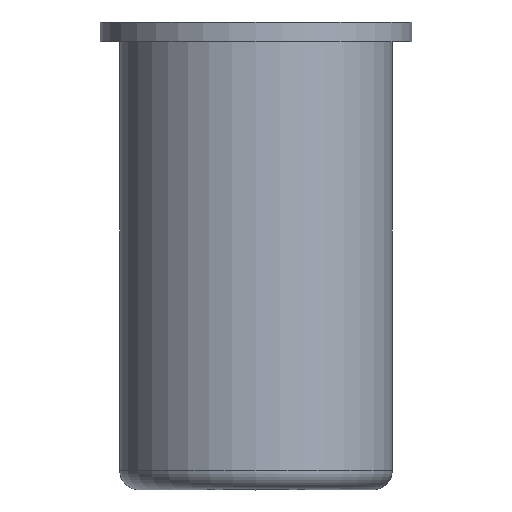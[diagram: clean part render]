
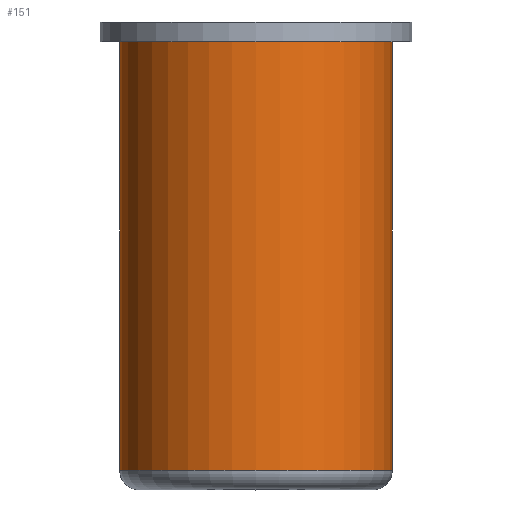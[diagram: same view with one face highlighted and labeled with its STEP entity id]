
A CAD part, top view. The second image highlights one B-rep face of the part: STEP entity #151.
In plain terms, the highlighted cylindrical face has radius 3.5 mm (diameter 7 mm), a full revolution.
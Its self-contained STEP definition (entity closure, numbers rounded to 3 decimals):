
#4 = DIRECTION ( 'NONE',  ( 0., 0., -1. ) ) ;
#17 = DIRECTION ( 'NONE',  ( 0., -1., 0. ) ) ;
#24 = VERTEX_POINT ( 'NONE', #41 ) ;
#41 = CARTESIAN_POINT ( 'NONE',  ( 0., -11.5, 3.5 ) ) ;
#45 = CYLINDRICAL_SURFACE ( 'NONE', #81, 3.5 ) ;
#47 = CIRCLE ( 'NONE', #136, 3.5 ) ;
#51 = CARTESIAN_POINT ( 'NONE',  ( 0., -11.5, 0. ) ) ;
#62 = CARTESIAN_POINT ( 'NONE',  ( 0., 0., 0. ) ) ;
#81 = AXIS2_PLACEMENT_3D ( 'NONE', #62, #17, #168 ) ;
#90 = AXIS2_PLACEMENT_3D ( 'NONE', #51, #100, #113 ) ;
#92 = VERTEX_POINT ( 'NONE', #105 ) ;
#93 = ORIENTED_EDGE ( 'NONE', *, *, #117, .T. ) ;
#98 = EDGE_CURVE ( 'NONE', #24, #24, #163, .T. ) ;
#100 = DIRECTION ( 'NONE',  ( 0., 1., 0. ) ) ;
#105 = CARTESIAN_POINT ( 'NONE',  ( 0., -0.5, -3.5 ) ) ;
#106 = CARTESIAN_POINT ( 'NONE',  ( 0., -0.5, 0. ) ) ;
#113 = DIRECTION ( 'NONE',  ( 0., 0., 1. ) ) ;
#117 = EDGE_CURVE ( 'NONE', #92, #92, #47, .T. ) ;
#119 = FACE_OUTER_BOUND ( 'NONE', #173, .T. ) ;
#133 = ORIENTED_EDGE ( 'NONE', *, *, #98, .T. ) ;
#136 = AXIS2_PLACEMENT_3D ( 'NONE', #106, #143, #4 ) ;
#138 = EDGE_LOOP ( 'NONE', ( #93 ) ) ;
#143 = DIRECTION ( 'NONE',  ( 0., -1., 0. ) ) ;
#151 = ADVANCED_FACE ( 'NONE', ( #119, #154 ), #45, .T. ) ;
#154 = FACE_OUTER_BOUND ( 'NONE', #138, .T. ) ;
#163 = CIRCLE ( 'NONE', #90, 3.5 ) ;
#168 = DIRECTION ( 'NONE',  ( 0., 0., -1. ) ) ;
#173 = EDGE_LOOP ( 'NONE', ( #133 ) ) ;
